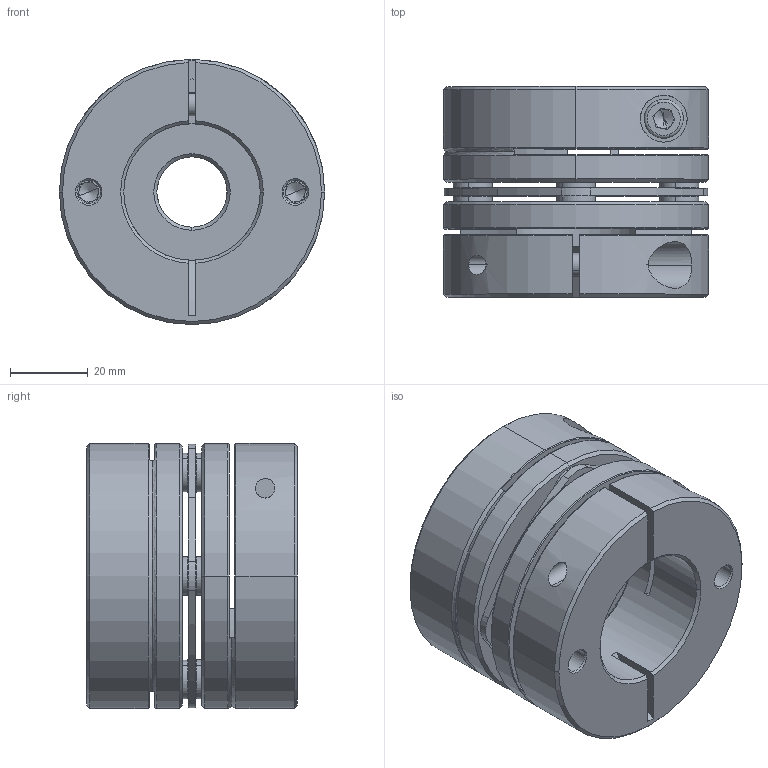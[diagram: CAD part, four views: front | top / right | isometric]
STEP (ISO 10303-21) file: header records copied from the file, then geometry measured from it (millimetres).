
FILE_DESCRIPTION (( 'STEP AP203' ), '1' );
FILE_NAME ('LD1-D68-18-35.STEP', '2021-10-26T07:54:41', ( '' ), ( '' ), 'SwSTEP 2.0', 'SolidWorks 2018', '' );
FILE_SCHEMA (( 'CONFIG_CONTROL_DESIGN' ));
Length unit declared in the file: millimetre
Products named in the file (2): LD1-D68-18-35; 錨璃101^LD1-D68
Assembly tree (1 placements, depth 2):
  LD1-D68-18-35
    錨璃101^LD1-D68
Bounding box: 68 x 54 x 68 mm (x, y, z)
Volume: 137541.3 mm3; surface area: 45470.5 mm2
Topology: 1 solids, 15 shells, 445 faces, 1059 edges, 650 vertices
Faces by surface type: cylinder 163, plane 138, cone 122, torus 22
Entity records: 13459 total; most frequent: CARTESIAN_POINT 2611, DIRECTION 2433, ORIENTED_EDGE 2086, EDGE_CURVE 1043, AXIS2_PLACEMENT_3D 988, VERTEX_POINT 650, CIRCLE 539, EDGE_LOOP 525
